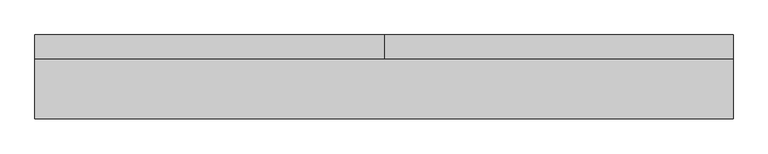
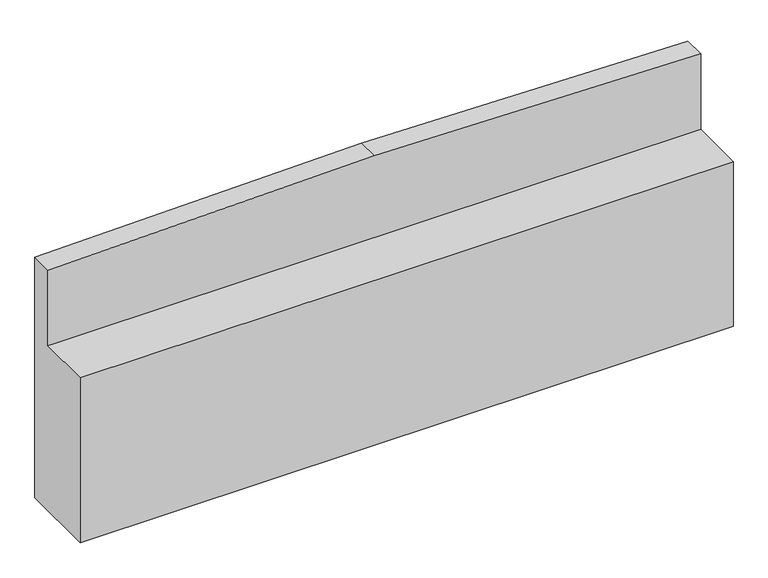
"""IFC4 building model written with IfcOpenShell, lengths in millimetres: proxy geometry, M_Abutment_basic_no_slope_no_foundation : M_Abutment_basic_no_slope_no_foundation."""

from ifc_helpers import new_model, si_unit, origin, place, context, project, spatial, faceted_brep, source, transform, mapped, element, save


def generic_models_c604970b(model_context):
    return source(origin(), model_context, "Body", "Brep", [
        faceted_brep([(5840.0, 1000.0, -3117.6036591), (-5840.0, 1000.0, -3117.6036591), (-5840.0, 1000.0, 1429.301329), (0.0, 1000.0, 1546.070196), (5840.0, 1000.0, 1429.301329), (-5840.0, -400.0, -3117.6036591), (5840.0, -400.0, -3117.6036591), (-5840.0, -400.0, 0.0), (5840.0, -400.0, 0.0), (-5840.0, 600.0, 0.0), (-5840.0, 600.0, 1429.301329), (5840.0, 600.0, 1429.301329), (5840.0, 600.0, 0.0), (0.0, 600.0, 1546.070196)], [[[0, 1, 2, 3, 4]], [[5, 1, 0, 6]], [[7, 5, 6, 8]], [[1, 5, 7, 9, 10, 2]], [[6, 0, 4, 11, 12, 8]], [[9, 7, 8, 12]], [[13, 3, 2, 10]], [[3, 13, 11, 4]], [[9, 12, 11, 13, 10]]]),
    ])


if __name__ == "__main__":
    model = new_model("IFC4")
    model_context = context("Model", 3, world=origin())
    ifc_project = project(units=[si_unit("LENGTHUNIT", "METRE", prefix="MILLI")], contexts=[model_context])
    site = spatial("IfcSite", under=ifc_project)
    building = spatial("IfcBuilding", under=site)
    placement = place(None, origin())
    generic_models_shape = generic_models_c604970b(model_context)
    element("IfcBuildingElementProxy", 1, Name="M_Abutment_basic_no_slope_no_foundation : M_Abutment_basic_no_slope_no_foundation", ObjectType="M_Abutment_basic_no_slope_no_foundation : M_Abutment_basic_no_slope_no_foundation", at=placement, inside=building, context=model_context, shape_type="MappedRepresentation", body=[
        mapped(generic_models_shape, transform((0.0, 0.0, 0.0), x_axis=(1.0, 0.0, 0.0), y_axis=(0.0, 1.0, 0.0), z_axis=(0.0, 0.0, 1.0))),
    ])
    save(model, "model.ifc")
